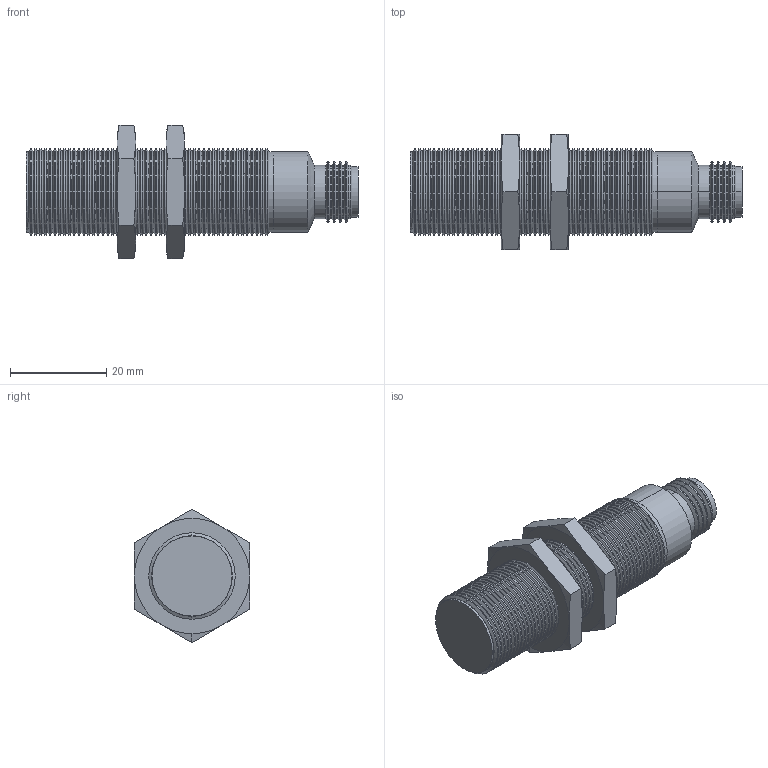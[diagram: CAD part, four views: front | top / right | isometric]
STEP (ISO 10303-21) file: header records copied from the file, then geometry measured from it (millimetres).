
FILE_DESCRIPTION (( 'STEP AP203' ), '1' );
FILE_NAME ('90-XXXX-016.STEP', '2015-10-28T13:14:02', ( 'Sam' ), ( 'Spade' ), 'SwSTEP 2.0', 'SolidWorks 2002296', '' );
FILE_SCHEMA (( 'CONFIG_CONTROL_DESIGN' ));
Length unit declared in the file: inch
Products named in the file (9): 90-XXXX-016; Imported154; Imported155; Imported153; Imported152; Imported151; Imported156; Imported158; Imported157
Assembly tree (8 placements, depth 2):
  90-XXXX-016
    Imported155
    Imported153
    Imported152
    Imported151
    Imported157
    Imported156
    Imported158
    Imported154
Bounding box: 69.04 x 23.98 x 27.69 mm (x, y, z)
Volume: 16768.4 mm3; surface area: 9464.7 mm2
Topology: 8 solids, 8 shells, 472 faces, 965 edges, 511 vertices
Faces by surface type: cone 284, cylinder 145, plane 37, bspline 6
Entity records: 13144 total; most frequent: DIRECTION 2347, CARTESIAN_POINT 2187, ORIENTED_EDGE 1918, EDGE_CURVE 959, AXIS2_PLACEMENT_3D 959, VERTEX_POINT 511, EDGE_LOOP 484, CIRCLE 482
